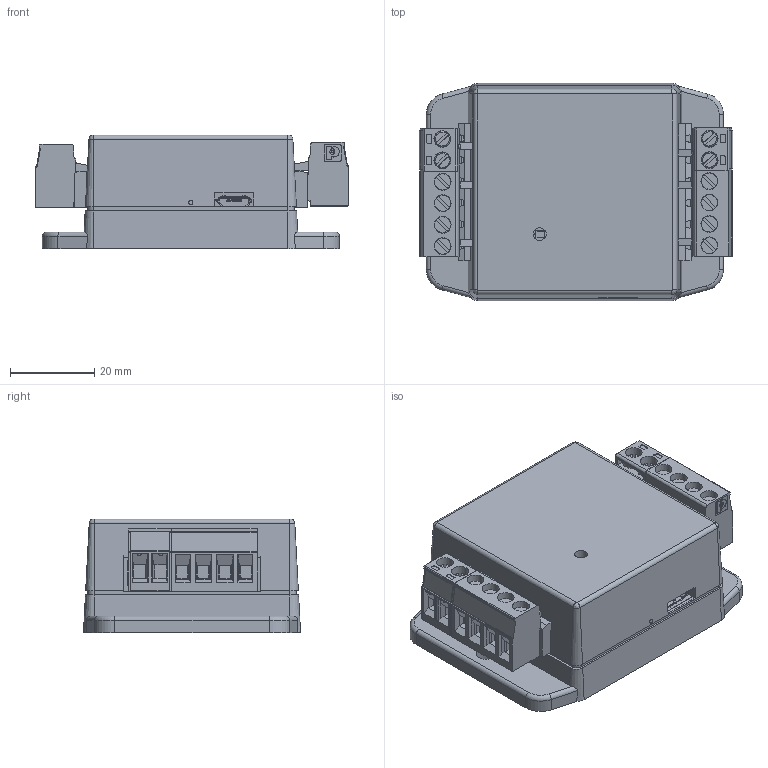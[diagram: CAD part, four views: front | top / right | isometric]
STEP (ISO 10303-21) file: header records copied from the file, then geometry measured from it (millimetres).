
FILE_DESCRIPTION(/* description */ (''),/* implementation_level */ '2;1');
FILE_NAME(/* name */ 'pixel-controller-proton-vxx.step',/* time_stamp */ '2024-01-09T13:53:14-06:00',/* author */ (''),/* organization */ (''),/* preprocessor_version */ 'ST-DEVELOPER v20',/* originating_system */ 'Autodesk Translation Framework v12.14.0.127',/* authorisation */ '');
FILE_SCHEMA (('AUTOMOTIVE_DESIGN { 1 0 10303 214 3 1 1 }'));
Products named in the file (32): pixel-controller-proton-SN22; SN-21B_SN-21B-01; SN-22C_SN-22C-01; pixel-controller-proton-v1b; Board; Packages; TL3305; QFN28-ML_6X6MM; 1206; C0603; C0805; R0603; R1210; SOT23-6; SOT23-6 (1); 105017-1001; FE05-1; HEADER-2X1 (1); MSTBA6; MSTBA6 (1); SOIC-16; SOIC-8-WSPECIAL; SOT25; SOT25 (1); 0603-ARV; HEADER-2X1; 1757035; 1757019; 1757019_1; MSTB-2; 1757035_1; PG145699
Assembly tree (52 placements, depth 4):
  pixel-controller-proton-SN22
    SN-21B_SN-21B-01
    SN-22C_SN-22C-01
    pixel-controller-proton-v1b
      Board
      Packages
        TL3305
        QFN28-ML_6X6MM
        1206
        C0603  x10
        C0805  x6
        R0603  x6
        R1210
        SOT23-6
        SOT23-6 (1)
        105017-1001
        FE05-1
        HEADER-2X1 (1)
        MSTBA6
        MSTBA6 (1)
        SOIC-16
        SOIC-8-WSPECIAL
        SOT25
        SOT25 (1)
        0603-ARV
        HEADER-2X1
    1757035
      PG145699
    1757019
      MSTB-2
    1757019_1
      MSTB-2
    1757035_1
      PG145699
Bounding box: 74.3 x 51.45 x 27 mm (x, y, z)
Volume: 37701.9 mm3; surface area: 40490.6 mm2
Topology: 59 solids, 63 shells, 5640 faces, 14599 edges, 9340 vertices
Faces by surface type: plane 4401, cylinder 1021, sphere 127, cone 41, bspline 37, torus 13
Full cylindrical faces by diameter (mm): 0.3 x2, 0.35 x60, 0.38 x2, 0.434 x2, 0.609 x2, 0.65 x4, 0.7 x6, 0.95 x4, 1 x11, 1.04 x1, 1.1 x2, 1.397 x12, 1.4 x16, 1.53 x4, 2.6 x1, 2.8 x18, 3 x9, 3.783 x8, 4 x12, 4.5 x2
Entity records: 131661 total; most frequent: CARTESIAN_POINT 23085, ORIENTED_EDGE 21800, DIRECTION 21201, EDGE_CURVE 10900, LINE 8837, VECTOR 8837, VERTEX_POINT 6977, AXIS2_PLACEMENT_3D 6182
